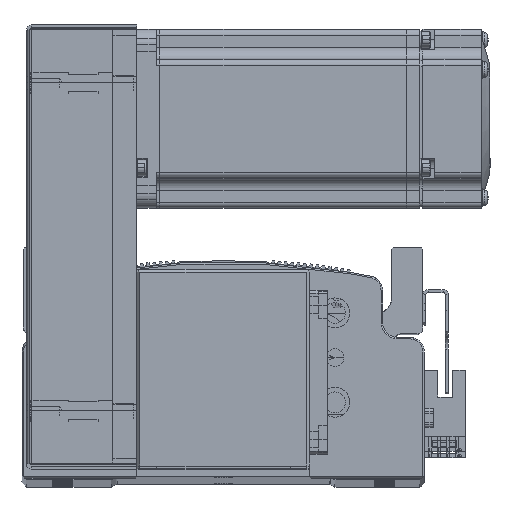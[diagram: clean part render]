
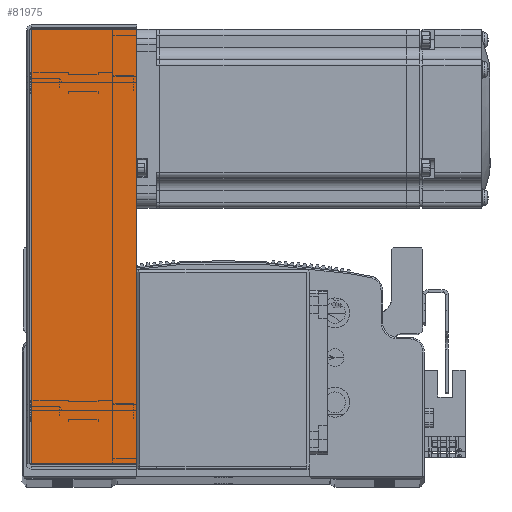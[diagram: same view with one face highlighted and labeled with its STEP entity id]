
A CAD part, top view. The second image highlights one B-rep face of the part: STEP entity #81975.
In plain terms, the highlighted planar face has unit normal (0, 0, 1).
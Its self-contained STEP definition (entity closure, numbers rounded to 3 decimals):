
#432 = CARTESIAN_POINT ( 'NONE',  ( -72.793, 36., 34.5 ) ) ;
#463 = CARTESIAN_POINT ( 'NONE',  ( 72.793, 36., 34.5 ) ) ;
#10910 = CARTESIAN_POINT ( 'NONE',  ( -74.5, 0.737, 34.5 ) ) ;
#10930 = DIRECTION ( 'NONE',  ( -1., 0., 0. ) ) ;
#16874 = EDGE_LOOP ( 'NONE', ( #39553, #39651, #39611, #39549 ) ) ;
#18328 = VECTOR ( 'NONE', #10930, 1000. ) ;
#18348 = LINE ( 'NONE', #10910, #18328 ) ;
#19856 = DIRECTION ( 'NONE',  ( 0., 1., 0. ) ) ;
#19865 = CARTESIAN_POINT ( 'NONE',  ( 72.793, 0., 34.5 ) ) ;
#20032 = DIRECTION ( 'NONE',  ( -1., 0., 0. ) ) ;
#20049 = CARTESIAN_POINT ( 'NONE',  ( 0., 36., 34.5 ) ) ;
#20075 = CARTESIAN_POINT ( 'NONE',  ( -72.793, 0., 34.5 ) ) ;
#20107 = DIRECTION ( 'NONE',  ( 0., 1., 0. ) ) ;
#21011 = CARTESIAN_POINT ( 'NONE',  ( -72.793, 0.737, 34.5 ) ) ;
#25592 = VERTEX_POINT ( 'NONE', #45929 ) ;
#35375 = AXIS2_PLACEMENT_3D ( 'NONE', #57348, #57344, #57276 ) ;
#39549 = ORIENTED_EDGE ( 'NONE', *, *, #70256, .F. ) ;
#39553 = ORIENTED_EDGE ( 'NONE', *, *, #69052, .F. ) ;
#39611 = ORIENTED_EDGE ( 'NONE', *, *, #70245, .T. ) ;
#39651 = ORIENTED_EDGE ( 'NONE', *, *, #70099, .T. ) ;
#44744 = LINE ( 'NONE', #19865, #44746 ) ;
#44746 = VECTOR ( 'NONE', #19856, 1000. ) ;
#44895 = VECTOR ( 'NONE', #20032, 1000. ) ;
#44927 = VECTOR ( 'NONE', #20107, 1000. ) ;
#44951 = LINE ( 'NONE', #20049, #44895 ) ;
#44972 = LINE ( 'NONE', #20075, #44927 ) ;
#45929 = CARTESIAN_POINT ( 'NONE',  ( 72.793, 0.737, 34.5 ) ) ;
#49736 = VERTEX_POINT ( 'NONE', #432 ) ;
#49834 = VERTEX_POINT ( 'NONE', #463 ) ;
#57276 = DIRECTION ( 'NONE',  ( -1., 0., 0. ) ) ;
#57342 = PLANE ( 'NONE',  #35375 ) ;
#57344 = DIRECTION ( 'NONE',  ( 0., 0., -1. ) ) ;
#57348 = CARTESIAN_POINT ( 'NONE',  ( 0., 0., 34.5 ) ) ;
#66112 = FACE_OUTER_BOUND ( 'NONE', #16874, .T. ) ;
#69052 = EDGE_CURVE ( 'NONE', #25592, #71910, #18348, .T. ) ;
#70099 = EDGE_CURVE ( 'NONE', #25592, #49834, #44744, .T. ) ;
#70245 = EDGE_CURVE ( 'NONE', #49834, #49736, #44951, .T. ) ;
#70256 = EDGE_CURVE ( 'NONE', #71910, #49736, #44972, .T. ) ;
#71910 = VERTEX_POINT ( 'NONE', #21011 ) ;
#81975 = ADVANCED_FACE ( 'NONE', ( #66112 ), #57342, .F. ) ;
